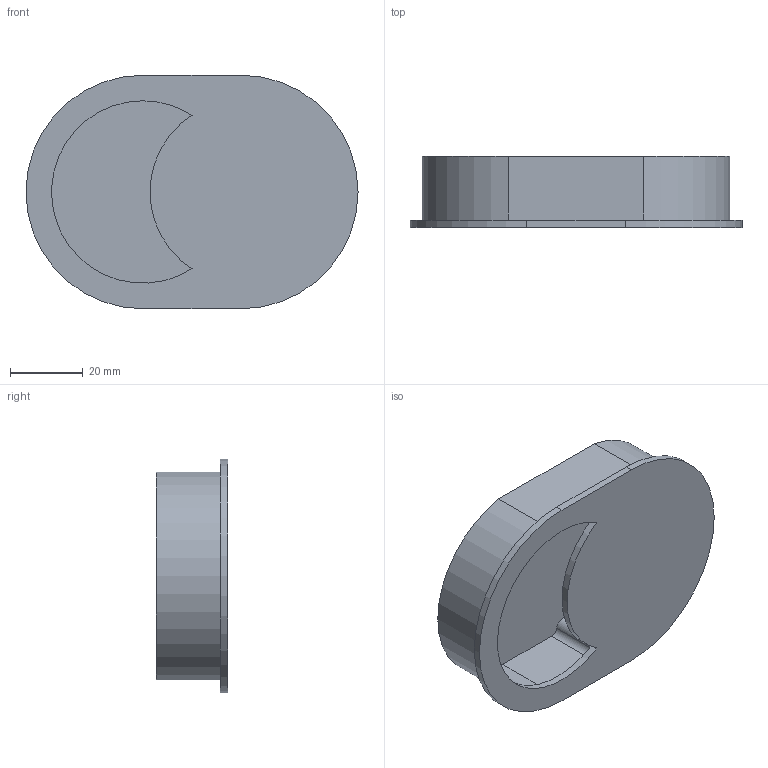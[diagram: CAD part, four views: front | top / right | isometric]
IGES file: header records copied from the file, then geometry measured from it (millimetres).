
Start section: Data from Parasolid IGES Translator 15.0.47, Copyright(c) 2006 Siemens P LM Software. All Rights Reserved.
Global section: file name: 9145713.igs; native system:  By UGS Corp.; preprocessor: XPlus GENERIC/IGES 3.0; author: Noname; organization: Noname; date: 20140122.173644; units: millimetre
Bounding box: 91 x 19.5 x 64 mm (x, y, z)
Surface area: 23407.1 mm2 (no closed solid volume)
Topology: 0 solids, 0 shells, 37 faces, 168 edges, 168 vertices
Faces by surface type: revolution 20, extrusion 17
